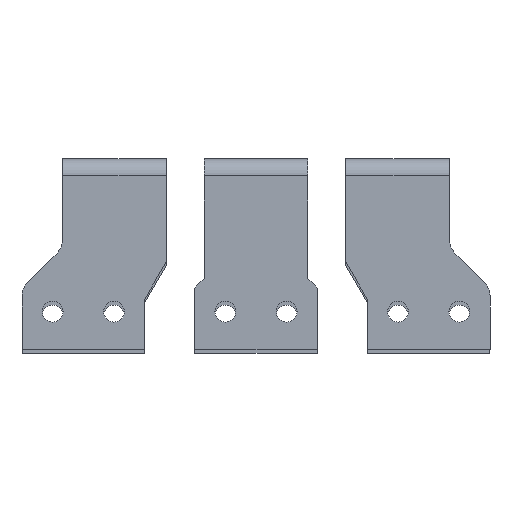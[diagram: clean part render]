
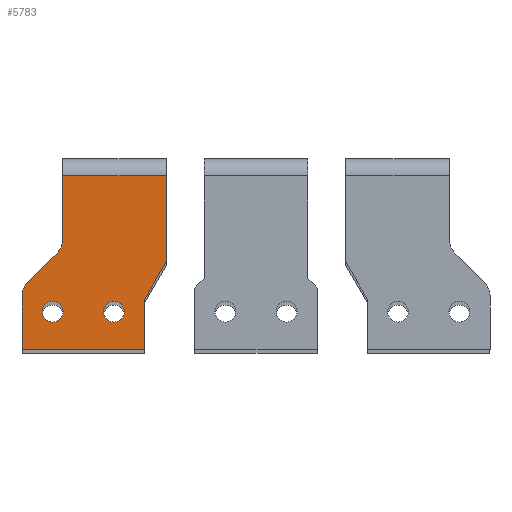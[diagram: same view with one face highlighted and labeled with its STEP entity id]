
A CAD part, front view. The second image highlights one B-rep face of the part: STEP entity #5783.
In plain terms, the highlighted planar face has unit normal (0, -1, 0).
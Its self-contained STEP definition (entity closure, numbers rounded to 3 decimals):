
#44 = DIRECTION ( 'NONE',  ( -0.5, 0., -0.866 ) ) ;
#95 = EDGE_CURVE ( 'NONE', #6297, #3856, #7199, .T. ) ;
#135 = LINE ( 'NONE', #2854, #4219 ) ;
#179 = VERTEX_POINT ( 'NONE', #793 ) ;
#254 = CARTESIAN_POINT ( 'NONE',  ( -124., -121.7, -63.25 ) ) ;
#282 = EDGE_CURVE ( 'NONE', #2090, #2810, #671, .T. ) ;
#290 = ORIENTED_EDGE ( 'NONE', *, *, #95, .T. ) ;
#393 = AXIS2_PLACEMENT_3D ( 'NONE', #5383, #5966, #735 ) ;
#431 = VECTOR ( 'NONE', #6860, 1000. ) ;
#477 = CARTESIAN_POINT ( 'NONE',  ( -42.5, -121.7, 28.75 ) ) ;
#543 = ORIENTED_EDGE ( 'NONE', *, *, #5437, .T. ) ;
#546 = VERTEX_POINT ( 'NONE', #1216 ) ;
#573 = CARTESIAN_POINT ( 'NONE',  ( -59., -121.7, 31.75 ) ) ;
#671 = CIRCLE ( 'NONE', #5452, 5.5 ) ;
#735 = DIRECTION ( 'NONE',  ( 0., 0., 1. ) ) ;
#774 = EDGE_CURVE ( 'NONE', #6297, #4716, #4658, .T. ) ;
#793 = CARTESIAN_POINT ( 'NONE',  ( -47.5, -121.7, -16.731 ) ) ;
#907 = FACE_OUTER_BOUND ( 'NONE', #4235, .T. ) ;
#979 = DIRECTION ( 'NONE',  ( 0., 0., -1. ) ) ;
#1125 = CIRCLE ( 'NONE', #6235, 5.5 ) ;
#1138 = DIRECTION ( 'NONE',  ( 0., 0., -1. ) ) ;
#1216 = CARTESIAN_POINT ( 'NONE',  ( -102.5, -121.7, -5.108 ) ) ;
#1257 = EDGE_CURVE ( 'NONE', #2810, #2090, #1125, .T. ) ;
#1435 = ORIENTED_EDGE ( 'NONE', *, *, #1257, .F. ) ;
#1666 = AXIS2_PLACEMENT_3D ( 'NONE', #5513, #6164, #979 ) ;
#1770 = CARTESIAN_POINT ( 'NONE',  ( -107.75, -121.7, -48.75 ) ) ;
#1832 = LINE ( 'NONE', #477, #6079 ) ;
#2077 = VERTEX_POINT ( 'NONE', #7509 ) ;
#2090 = VERTEX_POINT ( 'NONE', #2973 ) ;
#2201 = CARTESIAN_POINT ( 'NONE',  ( -42.5, -121.7, 31.75 ) ) ;
#2336 = VECTOR ( 'NONE', #5787, 1000. ) ;
#2546 = ORIENTED_EDGE ( 'NONE', *, *, #7068, .F. ) ;
#2548 = CARTESIAN_POINT ( 'NONE',  ( -59., -121.7, -63.25 ) ) ;
#2552 = CARTESIAN_POINT ( 'NONE',  ( -102.5, -121.7, 28.75 ) ) ;
#2600 = DIRECTION ( 'NONE',  ( 0., 0., -1. ) ) ;
#2710 = EDGE_LOOP ( 'NONE', ( #6410, #6550 ) ) ;
#2732 = ORIENTED_EDGE ( 'NONE', *, *, #7223, .F. ) ;
#2745 = AXIS2_PLACEMENT_3D ( 'NONE', #2201, #3978, #6259 ) ;
#2751 = CARTESIAN_POINT ( 'NONE',  ( -112.5, -121.7, -5.108 ) ) ;
#2810 = VERTEX_POINT ( 'NONE', #1770 ) ;
#2854 = CARTESIAN_POINT ( 'NONE',  ( -42.5, -121.7, -63.25 ) ) ;
#2957 = VERTEX_POINT ( 'NONE', #2552 ) ;
#2963 = CARTESIAN_POINT ( 'NONE',  ( -105.429, -121.7, -12.179 ) ) ;
#2973 = CARTESIAN_POINT ( 'NONE',  ( -107.75, -121.7, -37.75 ) ) ;
#3000 = VERTEX_POINT ( 'NONE', #5435 ) ;
#3057 = CARTESIAN_POINT ( 'NONE',  ( -107.75, -121.7, -43.25 ) ) ;
#3090 = DIRECTION ( 'NONE',  ( 0., 0., -1. ) ) ;
#3121 = CARTESIAN_POINT ( 'NONE',  ( -124., -121.7, -30.75 ) ) ;
#3236 = VECTOR ( 'NONE', #2600, 1000. ) ;
#3316 = DIRECTION ( 'NONE',  ( 0., -1., 0. ) ) ;
#3330 = CARTESIAN_POINT ( 'NONE',  ( -47.5, -121.7, 31.75 ) ) ;
#3355 = ORIENTED_EDGE ( 'NONE', *, *, #6782, .T. ) ;
#3388 = DIRECTION ( 'NONE',  ( -1., 0., 0. ) ) ;
#3402 = PLANE ( 'NONE',  #2745 ) ;
#3405 = VERTEX_POINT ( 'NONE', #4797 ) ;
#3480 = DIRECTION ( 'NONE',  ( 0., 0., 1. ) ) ;
#3488 = EDGE_CURVE ( 'NONE', #3686, #3405, #3885, .T. ) ;
#3501 = CARTESIAN_POINT ( 'NONE',  ( -102.5, -121.7, 65.761 ) ) ;
#3531 = LINE ( 'NONE', #5149, #4627 ) ;
#3552 = VECTOR ( 'NONE', #3480, 1000. ) ;
#3629 = EDGE_CURVE ( 'NONE', #3000, #179, #4241, .T. ) ;
#3686 = VERTEX_POINT ( 'NONE', #4518 ) ;
#3856 = VERTEX_POINT ( 'NONE', #5213 ) ;
#3885 = CIRCLE ( 'NONE', #1666, 5.5 ) ;
#3978 = DIRECTION ( 'NONE',  ( 0., 1., 0. ) ) ;
#4015 = VERTEX_POINT ( 'NONE', #2548 ) ;
#4219 = VECTOR ( 'NONE', #3388, 1000. ) ;
#4235 = EDGE_LOOP ( 'NONE', ( #6329, #290, #543, #4614, #2546, #6844, #5500, #3355, #2732, #5611 ) ) ;
#4241 = LINE ( 'NONE', #3330, #431 ) ;
#4457 = EDGE_CURVE ( 'NONE', #4015, #6623, #135, .T. ) ;
#4487 = DIRECTION ( 'NONE',  ( 0., 1., 0. ) ) ;
#4506 = DIRECTION ( 'NONE',  ( 0., 0., -1. ) ) ;
#4508 = EDGE_CURVE ( 'NONE', #179, #2077, #3531, .T. ) ;
#4518 = CARTESIAN_POINT ( 'NONE',  ( -75.25, -121.7, -48.75 ) ) ;
#4614 = ORIENTED_EDGE ( 'NONE', *, *, #4457, .F. ) ;
#4627 = VECTOR ( 'NONE', #44, 1000. ) ;
#4658 = LINE ( 'NONE', #3121, #4738 ) ;
#4716 = VERTEX_POINT ( 'NONE', #2963 ) ;
#4738 = VECTOR ( 'NONE', #7157, 1000. ) ;
#4792 = FACE_BOUND ( 'NONE', #5634, .T. ) ;
#4797 = CARTESIAN_POINT ( 'NONE',  ( -75.25, -121.7, -37.75 ) ) ;
#4868 = AXIS2_PLACEMENT_3D ( 'NONE', #7325, #3316, #4506 ) ;
#5071 = LINE ( 'NONE', #3501, #3552 ) ;
#5135 = DIRECTION ( 'NONE',  ( 0., 0., 1. ) ) ;
#5149 = CARTESIAN_POINT ( 'NONE',  ( -59., -121.7, -36.65 ) ) ;
#5194 = ORIENTED_EDGE ( 'NONE', *, *, #282, .F. ) ;
#5213 = CARTESIAN_POINT ( 'NONE',  ( -124., -121.7, -34.892 ) ) ;
#5243 = CARTESIAN_POINT ( 'NONE',  ( -121.071, -121.7, -27.821 ) ) ;
#5383 = CARTESIAN_POINT ( 'NONE',  ( -114., -121.7, -34.892 ) ) ;
#5435 = CARTESIAN_POINT ( 'NONE',  ( -47.5, -121.7, 28.75 ) ) ;
#5437 = EDGE_CURVE ( 'NONE', #3856, #6623, #5499, .T. ) ;
#5452 = AXIS2_PLACEMENT_3D ( 'NONE', #7459, #6928, #1138 ) ;
#5483 = CIRCLE ( 'NONE', #6471, 10. ) ;
#5499 = LINE ( 'NONE', #7220, #3236 ) ;
#5500 = ORIENTED_EDGE ( 'NONE', *, *, #3629, .F. ) ;
#5513 = CARTESIAN_POINT ( 'NONE',  ( -75.25, -121.7, -43.25 ) ) ;
#5611 = ORIENTED_EDGE ( 'NONE', *, *, #6157, .T. ) ;
#5634 = EDGE_LOOP ( 'NONE', ( #1435, #5194 ) ) ;
#5640 = EDGE_CURVE ( 'NONE', #3405, #3686, #5971, .T. ) ;
#5672 = LINE ( 'NONE', #573, #2336 ) ;
#5783 = ADVANCED_FACE ( 'NONE', ( #4792, #5791, #907 ), #3402, .F. ) ;
#5787 = DIRECTION ( 'NONE',  ( 0., 0., -1. ) ) ;
#5791 = FACE_BOUND ( 'NONE', #2710, .T. ) ;
#5966 = DIRECTION ( 'NONE',  ( 0., -1., 0. ) ) ;
#5971 = CIRCLE ( 'NONE', #4868, 5.5 ) ;
#6079 = VECTOR ( 'NONE', #6825, 1000. ) ;
#6157 = EDGE_CURVE ( 'NONE', #546, #4716, #5483, .T. ) ;
#6164 = DIRECTION ( 'NONE',  ( 0., -1., 0. ) ) ;
#6235 = AXIS2_PLACEMENT_3D ( 'NONE', #3057, #7176, #3090 ) ;
#6259 = DIRECTION ( 'NONE',  ( 0., 0., 1. ) ) ;
#6297 = VERTEX_POINT ( 'NONE', #5243 ) ;
#6329 = ORIENTED_EDGE ( 'NONE', *, *, #774, .F. ) ;
#6410 = ORIENTED_EDGE ( 'NONE', *, *, #3488, .F. ) ;
#6471 = AXIS2_PLACEMENT_3D ( 'NONE', #2751, #4487, #5135 ) ;
#6550 = ORIENTED_EDGE ( 'NONE', *, *, #5640, .F. ) ;
#6623 = VERTEX_POINT ( 'NONE', #254 ) ;
#6782 = EDGE_CURVE ( 'NONE', #3000, #2957, #1832, .T. ) ;
#6825 = DIRECTION ( 'NONE',  ( -1., 0., 0. ) ) ;
#6844 = ORIENTED_EDGE ( 'NONE', *, *, #4508, .F. ) ;
#6860 = DIRECTION ( 'NONE',  ( 0., 0., -1. ) ) ;
#6928 = DIRECTION ( 'NONE',  ( 0., -1., 0. ) ) ;
#7068 = EDGE_CURVE ( 'NONE', #2077, #4015, #5672, .T. ) ;
#7157 = DIRECTION ( 'NONE',  ( 0.707, 0., 0.707 ) ) ;
#7176 = DIRECTION ( 'NONE',  ( 0., -1., 0. ) ) ;
#7199 = CIRCLE ( 'NONE', #393, 10. ) ;
#7220 = CARTESIAN_POINT ( 'NONE',  ( -124., -121.7, 31.75 ) ) ;
#7223 = EDGE_CURVE ( 'NONE', #546, #2957, #5071, .T. ) ;
#7325 = CARTESIAN_POINT ( 'NONE',  ( -75.25, -121.7, -43.25 ) ) ;
#7459 = CARTESIAN_POINT ( 'NONE',  ( -107.75, -121.7, -43.25 ) ) ;
#7509 = CARTESIAN_POINT ( 'NONE',  ( -59., -121.7, -36.65 ) ) ;
